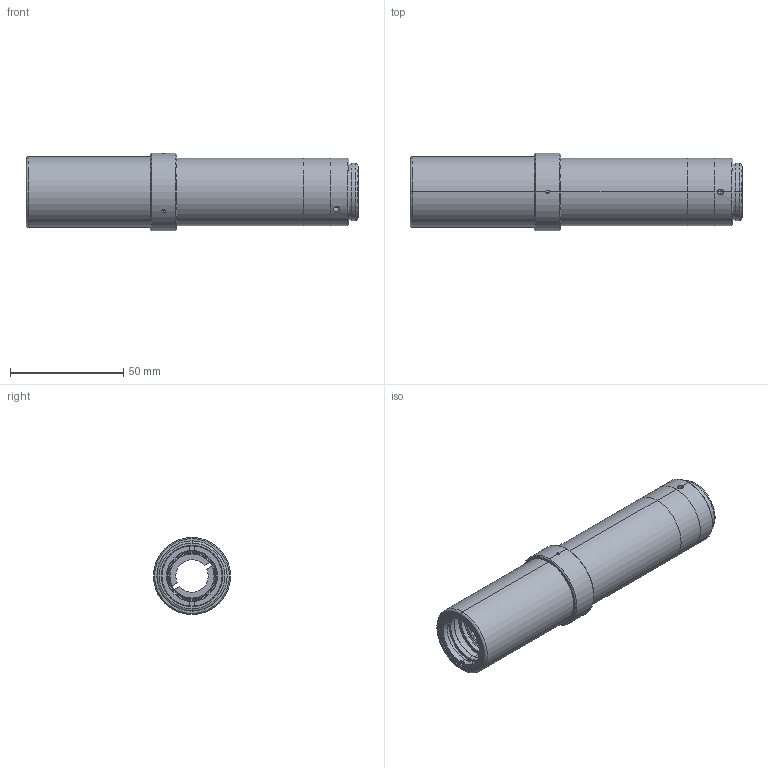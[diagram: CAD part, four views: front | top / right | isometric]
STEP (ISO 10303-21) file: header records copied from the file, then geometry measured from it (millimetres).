
FILE_DESCRIPTION (( 'STEP AP203' ), '1' );
FILE_NAME ('TC5M-40-65.STEP', '2020-08-19T08:44:44', ( '' ), ( '' ), 'SwSTEP 2.0', 'SolidWorks 2012', '' );
FILE_SCHEMA (( 'CONFIG_CONTROL_DESIGN' ));
Length unit declared in the file: millimetre
Products named in the file (1): TC5M-40-65
Bounding box: 146.48 x 34 x 34 mm (x, y, z)
Surface area: 20213.3 mm2 (no closed solid volume)
Topology: 0 solids, 18 shells, 108 faces, 286 edges, 194 vertices
Faces by surface type: cylinder 46, cone 34, plane 26, torus 2
Entity records: 3796 total; most frequent: CARTESIAN_POINT 991, DIRECTION 632, ORIENTED_EDGE 470, EDGE_CURVE 286, AXIS2_PLACEMENT_3D 265, VERTEX_POINT 194, CIRCLE 156, EDGE_LOOP 128
